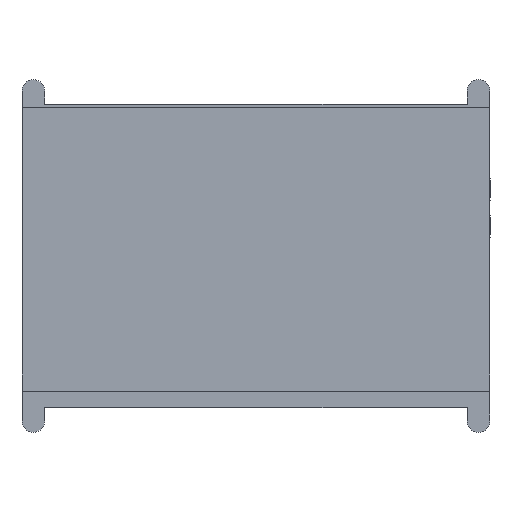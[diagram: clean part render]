
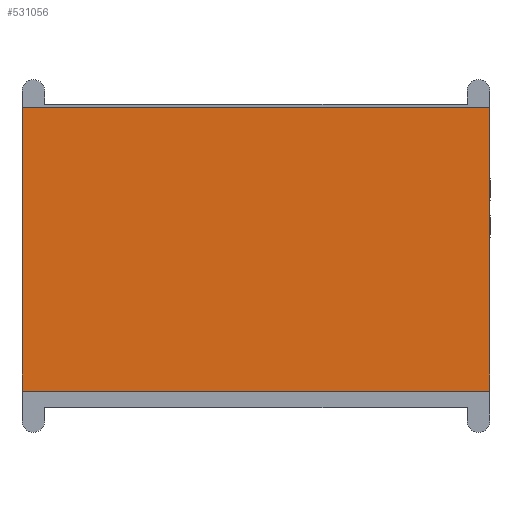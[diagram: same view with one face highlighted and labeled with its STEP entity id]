
A CAD part, top view. The second image highlights one B-rep face of the part: STEP entity #531056.
In plain terms, the highlighted planar face has unit normal (0, 0, 1).
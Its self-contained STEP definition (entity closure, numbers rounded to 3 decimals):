
#530742 = VERTEX_POINT('',#530743);
#530743 = CARTESIAN_POINT('',(-82.45,50.,1.5));
#530750 = PLANE('',#530751);
#530751 = AXIS2_PLACEMENT_3D('',#530752,#530753,#530754);
#530752 = CARTESIAN_POINT('',(-82.45,50.,0.));
#530753 = DIRECTION('',(0.,1.,0.));
#530754 = DIRECTION('',(1.,0.,0.));
#530762 = PLANE('',#530763);
#530763 = AXIS2_PLACEMENT_3D('',#530764,#530765,#530766);
#530764 = CARTESIAN_POINT('',(-82.45,-50.,0.));
#530765 = DIRECTION('',(-1.,0.,0.));
#530766 = DIRECTION('',(0.,1.,0.));
#530774 = EDGE_CURVE('',#530742,#530775,#530777,.T.);
#530775 = VERTEX_POINT('',#530776);
#530776 = CARTESIAN_POINT('',(82.45,50.,1.5));
#530777 = SURFACE_CURVE('',#530778,(#530782,#530789),.PCURVE_S1.);
#530778 = LINE('',#530779,#530780);
#530779 = CARTESIAN_POINT('',(-82.45,50.,1.5));
#530780 = VECTOR('',#530781,1.);
#530781 = DIRECTION('',(1.,0.,0.));
#530782 = PCURVE('',#530750,#530783);
#530783 = DEFINITIONAL_REPRESENTATION('',(#530784),#530788);
#530784 = LINE('',#530785,#530786);
#530785 = CARTESIAN_POINT('',(0.,-1.5));
#530786 = VECTOR('',#530787,1.);
#530787 = DIRECTION('',(1.,0.));
#530788 = ( GEOMETRIC_REPRESENTATION_CONTEXT(2) 
PARAMETRIC_REPRESENTATION_CONTEXT() REPRESENTATION_CONTEXT('2D SPACE',''
  ) );
#530789 = PCURVE('',#530790,#530795);
#530790 = PLANE('',#530791);
#530791 = AXIS2_PLACEMENT_3D('',#530792,#530793,#530794);
#530792 = CARTESIAN_POINT('',(-82.45,50.,1.5));
#530793 = DIRECTION('',(0.,0.,1.));
#530794 = DIRECTION('',(1.,0.,0.));
#530795 = DEFINITIONAL_REPRESENTATION('',(#530796),#530800);
#530796 = LINE('',#530797,#530798);
#530797 = CARTESIAN_POINT('',(0.,0.));
#530798 = VECTOR('',#530799,1.);
#530799 = DIRECTION('',(1.,0.));
#530800 = ( GEOMETRIC_REPRESENTATION_CONTEXT(2) 
PARAMETRIC_REPRESENTATION_CONTEXT() REPRESENTATION_CONTEXT('2D SPACE',''
  ) );
#530818 = PLANE('',#530819);
#530819 = AXIS2_PLACEMENT_3D('',#530820,#530821,#530822);
#530820 = CARTESIAN_POINT('',(82.45,50.,0.));
#530821 = DIRECTION('',(1.,0.,0.));
#530822 = DIRECTION('',(0.,-1.,0.));
#530860 = EDGE_CURVE('',#530775,#530861,#530863,.T.);
#530861 = VERTEX_POINT('',#530862);
#530862 = CARTESIAN_POINT('',(82.45,-50.,1.5));
#530863 = SURFACE_CURVE('',#530864,(#530868,#530875),.PCURVE_S1.);
#530864 = LINE('',#530865,#530866);
#530865 = CARTESIAN_POINT('',(82.45,50.,1.5));
#530866 = VECTOR('',#530867,1.);
#530867 = DIRECTION('',(0.,-1.,0.));
#530868 = PCURVE('',#530818,#530869);
#530869 = DEFINITIONAL_REPRESENTATION('',(#530870),#530874);
#530870 = LINE('',#530871,#530872);
#530871 = CARTESIAN_POINT('',(0.,-1.5));
#530872 = VECTOR('',#530873,1.);
#530873 = DIRECTION('',(1.,0.));
#530874 = ( GEOMETRIC_REPRESENTATION_CONTEXT(2) 
PARAMETRIC_REPRESENTATION_CONTEXT() REPRESENTATION_CONTEXT('2D SPACE',''
  ) );
#530875 = PCURVE('',#530790,#530876);
#530876 = DEFINITIONAL_REPRESENTATION('',(#530877),#530881);
#530877 = LINE('',#530878,#530879);
#530878 = CARTESIAN_POINT('',(164.9,0.));
#530879 = VECTOR('',#530880,1.);
#530880 = DIRECTION('',(0.,-1.));
#530881 = ( GEOMETRIC_REPRESENTATION_CONTEXT(2) 
PARAMETRIC_REPRESENTATION_CONTEXT() REPRESENTATION_CONTEXT('2D SPACE',''
  ) );
#530899 = PLANE('',#530900);
#530900 = AXIS2_PLACEMENT_3D('',#530901,#530902,#530903);
#530901 = CARTESIAN_POINT('',(82.45,-50.,0.));
#530902 = DIRECTION('',(0.,-1.,0.));
#530903 = DIRECTION('',(-1.,0.,0.));
#530936 = EDGE_CURVE('',#530861,#530937,#530939,.T.);
#530937 = VERTEX_POINT('',#530938);
#530938 = CARTESIAN_POINT('',(-82.45,-50.,1.5));
#530939 = SURFACE_CURVE('',#530940,(#530944,#530951),.PCURVE_S1.);
#530940 = LINE('',#530941,#530942);
#530941 = CARTESIAN_POINT('',(82.45,-50.,1.5));
#530942 = VECTOR('',#530943,1.);
#530943 = DIRECTION('',(-1.,0.,0.));
#530944 = PCURVE('',#530899,#530945);
#530945 = DEFINITIONAL_REPRESENTATION('',(#530946),#530950);
#530946 = LINE('',#530947,#530948);
#530947 = CARTESIAN_POINT('',(0.,-1.5));
#530948 = VECTOR('',#530949,1.);
#530949 = DIRECTION('',(1.,0.));
#530950 = ( GEOMETRIC_REPRESENTATION_CONTEXT(2) 
PARAMETRIC_REPRESENTATION_CONTEXT() REPRESENTATION_CONTEXT('2D SPACE',''
  ) );
#530951 = PCURVE('',#530790,#530952);
#530952 = DEFINITIONAL_REPRESENTATION('',(#530953),#530957);
#530953 = LINE('',#530954,#530955);
#530954 = CARTESIAN_POINT('',(164.9,-100.));
#530955 = VECTOR('',#530956,1.);
#530956 = DIRECTION('',(-1.,0.));
#530957 = ( GEOMETRIC_REPRESENTATION_CONTEXT(2) 
PARAMETRIC_REPRESENTATION_CONTEXT() REPRESENTATION_CONTEXT('2D SPACE',''
  ) );
#531007 = EDGE_CURVE('',#530937,#530742,#531008,.T.);
#531008 = SURFACE_CURVE('',#531009,(#531013,#531020),.PCURVE_S1.);
#531009 = LINE('',#531010,#531011);
#531010 = CARTESIAN_POINT('',(-82.45,-50.,1.5));
#531011 = VECTOR('',#531012,1.);
#531012 = DIRECTION('',(0.,1.,0.));
#531013 = PCURVE('',#530762,#531014);
#531014 = DEFINITIONAL_REPRESENTATION('',(#531015),#531019);
#531015 = LINE('',#531016,#531017);
#531016 = CARTESIAN_POINT('',(0.,-1.5));
#531017 = VECTOR('',#531018,1.);
#531018 = DIRECTION('',(1.,0.));
#531019 = ( GEOMETRIC_REPRESENTATION_CONTEXT(2) 
PARAMETRIC_REPRESENTATION_CONTEXT() REPRESENTATION_CONTEXT('2D SPACE',''
  ) );
#531020 = PCURVE('',#530790,#531021);
#531021 = DEFINITIONAL_REPRESENTATION('',(#531022),#531026);
#531022 = LINE('',#531023,#531024);
#531023 = CARTESIAN_POINT('',(0.,-100.));
#531024 = VECTOR('',#531025,1.);
#531025 = DIRECTION('',(0.,1.));
#531026 = ( GEOMETRIC_REPRESENTATION_CONTEXT(2) 
PARAMETRIC_REPRESENTATION_CONTEXT() REPRESENTATION_CONTEXT('2D SPACE',''
  ) );
#531056 = ADVANCED_FACE('',(#531057),#530790,.T.);
#531057 = FACE_BOUND('',#531058,.F.);
#531058 = EDGE_LOOP('',(#531059,#531060,#531061,#531062));
#531059 = ORIENTED_EDGE('',*,*,#530774,.T.);
#531060 = ORIENTED_EDGE('',*,*,#530860,.T.);
#531061 = ORIENTED_EDGE('',*,*,#530936,.T.);
#531062 = ORIENTED_EDGE('',*,*,#531007,.T.);
